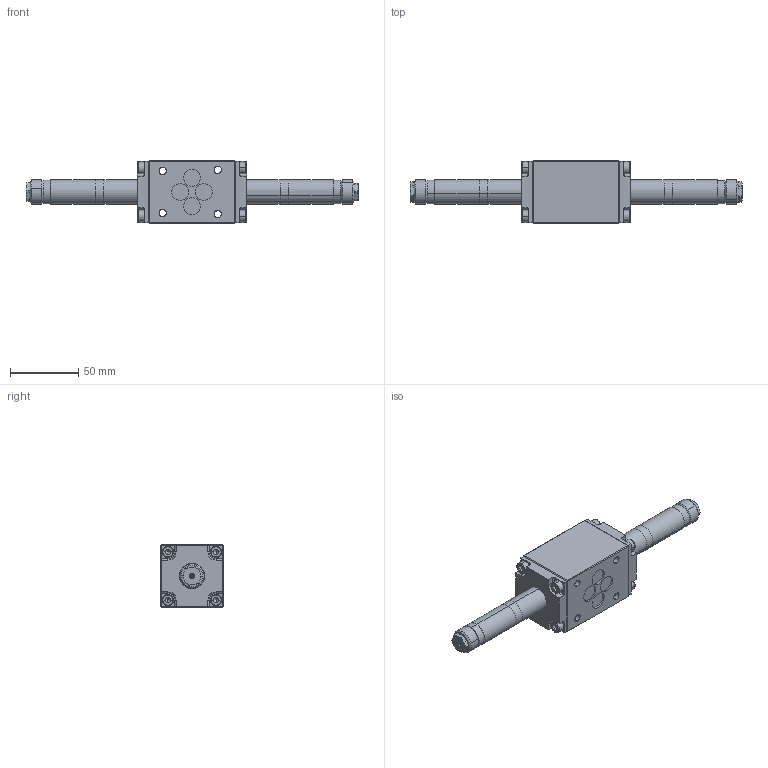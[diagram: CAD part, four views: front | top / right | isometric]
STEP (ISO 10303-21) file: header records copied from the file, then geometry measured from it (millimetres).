
FILE_DESCRIPTION (( 'STEP AP203' ), '1' );
FILE_NAME ('AEXd4-4_3.step', '2013-07-08T08:22:28', ( 'Wandfluh AG' ), ( 'Wandfluh AG' ), 'SwSTEP 2.0', 'SolidWorks 2012', '' );
FILE_SCHEMA (( 'CONFIG_CONTROL_DESIGN' ));
Length unit declared in the file: millimetre
Products named in the file (1): AEXd4-4_3
Bounding box: 244 x 46 x 46 mm (x, y, z)
Volume: 192857.2 mm3; surface area: 59305.4 mm2
Topology: 29 solids, 29 shells, 2260 faces, 5769 edges, 3733 vertices
Faces by surface type: plane 1522, cylinder 472, cone 127, torus 92, bspline 47
Entity records: 69855 total; most frequent: CARTESIAN_POINT 13967, DIRECTION 11716, ORIENTED_EDGE 11490, EDGE_CURVE 5745, LINE 3928, VECTOR 3928, AXIS2_PLACEMENT_3D 3894, VERTEX_POINT 3733
